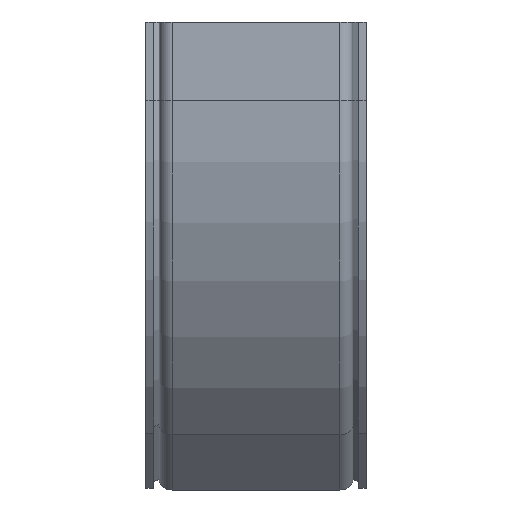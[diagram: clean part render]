
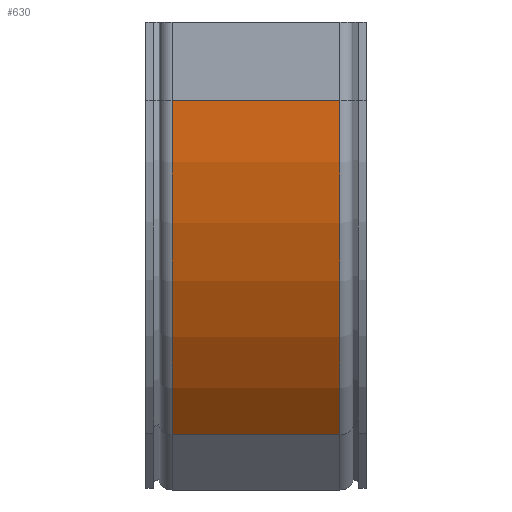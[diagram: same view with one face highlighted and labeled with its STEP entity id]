
A CAD part, left-side view. The second image highlights one B-rep face of the part: STEP entity #630.
In plain terms, the highlighted cylindrical face has radius 242.5 mm (diameter 485 mm), a partial arc.
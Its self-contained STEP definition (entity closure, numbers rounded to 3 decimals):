
#121 = DIRECTION ( 'NONE',  ( 0., 1., 0. ) ) ;
#135 = EDGE_CURVE ( 'NONE', #2822, #3793, #2593, .T. ) ;
#630 = ADVANCED_FACE ( 'NONE', ( #2018 ), #1970, .T. ) ;
#771 = VECTOR ( 'NONE', #121, 1000. ) ;
#832 = LINE ( 'NONE', #1940, #771 ) ;
#849 = CARTESIAN_POINT ( 'NONE',  ( -42.5, 43., -40. ) ) ;
#1267 = EDGE_LOOP ( 'NONE', ( #3093, #3106, #3148, #3198 ) ) ;
#1640 = DIRECTION ( 'NONE',  ( 0., 1., 0. ) ) ;
#1755 = AXIS2_PLACEMENT_3D ( 'NONE', #3390, #1640, #2116 ) ;
#1940 = CARTESIAN_POINT ( 'NONE',  ( -42.5, 0., -40. ) ) ;
#1970 = CYLINDRICAL_SURFACE ( 'NONE', #1755, 242.5 ) ;
#2018 = FACE_OUTER_BOUND ( 'NONE', #1267, .T. ) ;
#2116 = DIRECTION ( 'NONE',  ( 0., 0., 1. ) ) ;
#2205 = EDGE_CURVE ( 'NONE', #3591, #5388, #832, .T. ) ;
#2593 = LINE ( 'NONE', #4231, #2628 ) ;
#2628 = VECTOR ( 'NONE', #5667, 1000. ) ;
#2800 = CARTESIAN_POINT ( 'NONE',  ( -42.5, -43., -40. ) ) ;
#2822 = VERTEX_POINT ( 'NONE', #2952 ) ;
#2952 = CARTESIAN_POINT ( 'NONE',  ( 28.527, 43., -211.473 ) ) ;
#3093 = ORIENTED_EDGE ( 'NONE', *, *, #2205, .T. ) ;
#3106 = ORIENTED_EDGE ( 'NONE', *, *, #3928, .F. ) ;
#3148 = ORIENTED_EDGE ( 'NONE', *, *, #135, .T. ) ;
#3198 = ORIENTED_EDGE ( 'NONE', *, *, #3935, .T. ) ;
#3296 = CARTESIAN_POINT ( 'NONE',  ( 28.527, -43., -211.473 ) ) ;
#3390 = CARTESIAN_POINT ( 'NONE',  ( 200., 0., -40. ) ) ;
#3591 = VERTEX_POINT ( 'NONE', #2800 ) ;
#3793 = VERTEX_POINT ( 'NONE', #3296 ) ;
#3804 = DIRECTION ( 'NONE',  ( 0., 0., 1. ) ) ;
#3838 = DIRECTION ( 'NONE',  ( 0., 1., 0. ) ) ;
#3928 = EDGE_CURVE ( 'NONE', #2822, #5388, #5317, .T. ) ;
#3933 = CARTESIAN_POINT ( 'NONE',  ( 200., -43., -40. ) ) ;
#3935 = EDGE_CURVE ( 'NONE', #3793, #3591, #5359, .T. ) ;
#4049 = DIRECTION ( 'NONE',  ( 0., 0., 1. ) ) ;
#4066 = DIRECTION ( 'NONE',  ( 0., 1., 0. ) ) ;
#4094 = CARTESIAN_POINT ( 'NONE',  ( 200., 43., -40. ) ) ;
#4231 = CARTESIAN_POINT ( 'NONE',  ( 28.527, 43., -211.473 ) ) ;
#5317 = CIRCLE ( 'NONE', #5364, 242.5 ) ;
#5342 = AXIS2_PLACEMENT_3D ( 'NONE', #3933, #3838, #3804 ) ;
#5359 = CIRCLE ( 'NONE', #5342, 242.5 ) ;
#5364 = AXIS2_PLACEMENT_3D ( 'NONE', #4094, #4066, #4049 ) ;
#5388 = VERTEX_POINT ( 'NONE', #849 ) ;
#5667 = DIRECTION ( 'NONE',  ( 0., -1., 0. ) ) ;
